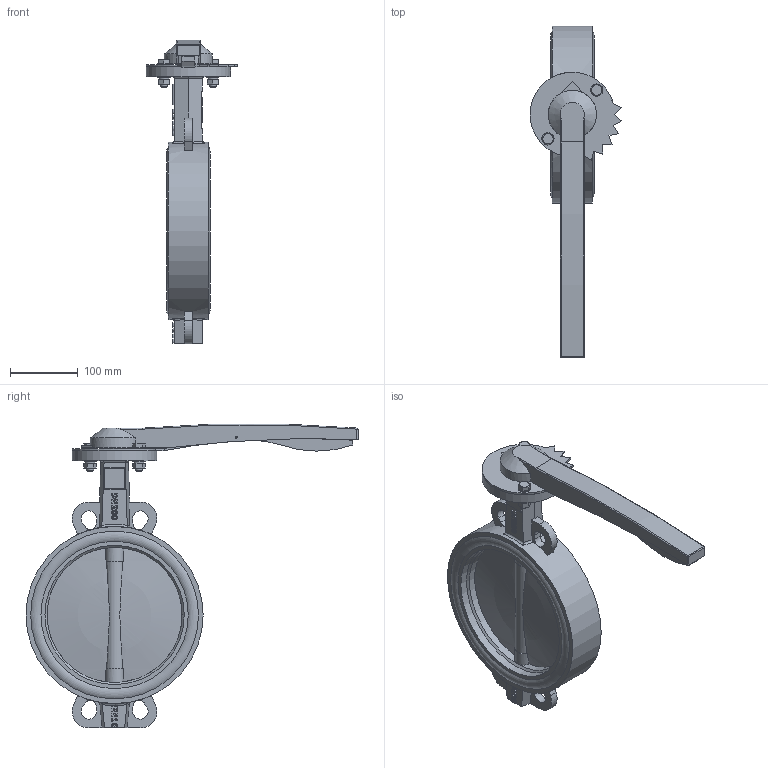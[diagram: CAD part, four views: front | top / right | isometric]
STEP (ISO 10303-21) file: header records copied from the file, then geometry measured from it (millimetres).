
FILE_DESCRIPTION(('STEP AP242'), '1');
FILE_NAME('Ïîâîðîòíûé çàòâîð ïîä ýëåêòðîïðèâîä', '', ('UNSPECIFIED'), ('UNSPECIFIED'), 'C3D Converter', 'C3D Toolkit', '');
FILE_SCHEMA(('AP242_MANAGED_MODEL_BASED_3D_ENGINEERING_MIM_LF { 1 0 10303 442 1 1 4 }'));
Length unit declared in the file: millimetre
Products named in the file (14): П
Assembly tree (20 placements, depth 3):
  (unnamed)
    (unnamed)
    П  x2
    (unnamed)
    (unnamed)
    (unnamed)
    (unnamed)
      (unnamed)
      (unnamed)
      (unnamed)
    (unnamed)  x2
    (unnamed)  x4
    (unnamed)  x2
    (unnamed)  x2
Bounding box: 135.83 x 491 x 449.28 mm (x, y, z)
Volume: 2566987 mm3; surface area: 603957.5 mm2
Topology: 19 solids, 19 shells, 563 faces, 1421 edges, 924 vertices
Faces by surface type: plane 286, extrusion 135, cylinder 98, cone 18, bspline 10, torus 10, sphere 6
Full cylindrical faces by diameter (mm): 3 x4, 6 x2, 8.376 x2, 10 x2, 11 x4, 11.421 x1, 12 x6, 18 x4, 22 x6, 28.31 x4, 31.113 x5, 33.941 x1, 125 x1, 200 x1, 205.96 x2, 217.88 x2, 232.987 x4, 248.093 x4, 262 x1
Entity records: 23379 total; most frequent: CARTESIAN_POINT 8852, ORIENTED_EDGE 2522, DIRECTION 2008, EDGE_CURVE 1261, VERTEX_POINT 864, VECTOR 794, LINE 659, EDGE_LOOP 653
